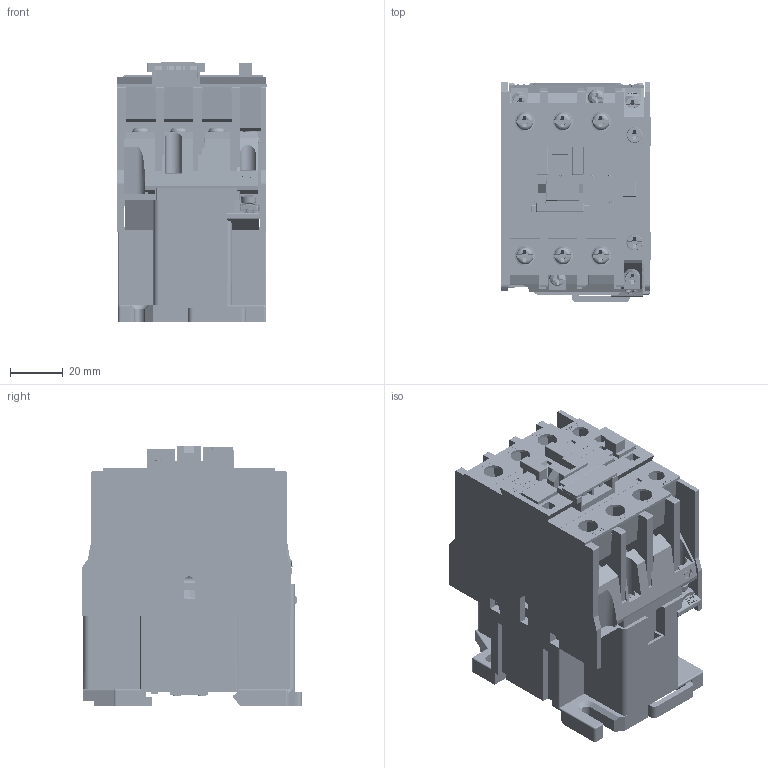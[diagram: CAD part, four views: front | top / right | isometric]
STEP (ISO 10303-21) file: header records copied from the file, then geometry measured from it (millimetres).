
FILE_DESCRIPTION((''),'2;1');
FILE_NAME('CJX2-3200_ASM','2023-07-26T16:45:33',('Administrator'),(''),'CREO PARAMETRIC BY PTC INC, 2020033','CREO PARAMETRIC BY PTC INC, 2020033','');
FILE_SCHEMA(('CONFIG_CONTROL_DESIGN'));
Products named in the file (22): CJX2-2500; CJX2-250002; CJX2S-250001; CJX2-250003; CJX2-250004; CJX2-3200; M4X100002; 9_5X300; M4X100001_ASM; M3_5X9_50002; 7_5X2_600; M3_5X9_50001_ASM; CJX2-321000; CJX2-322000; CJX2-09000; CJX2S-09_AF0; ST3_5X160001; CJX2-3200_ASM
Assembly tree (31 placements, depth 3):
  CJX2-3200_ASM
    CJX2-2500
    CJX2-250002
    CJX2S-250001
    CJX2-250003
    CJX2-250004
    CJX2-3200
    CJX2-3200
    M4X100001_ASM  x6
      M4X100002
      9_5X300
    M3_5X9_50001_ASM  x5
      M3_5X9_50002
      7_5X2_600
    CJX2-321000
    CJX2-322000
    CJX2-321000
    CJX2-322000
    CJX2-09000
    CJX2-2500
    CJX2S-09_AF0
    ST3_5X160001  x2
Bounding box: 56.7 x 83.75 x 99.1 mm (x, y, z)
Volume: 255599.9 mm3; surface area: 127445.9 mm2
Topology: 38 solids, 38 shells, 5351 faces, 15322 edges, 10248 vertices
Faces by surface type: plane 4459, cylinder 584, bspline 225, torus 58, sphere 13, cone 12
Entity records: 152985 total; most frequent: CARTESIAN_POINT 39886, ORIENTED_EDGE 24646, DIRECTION 21025, EDGE_CURVE 12323, VECTOR 11425, LINE 11425, VERTEX_POINT 8180, AXIS2_PLACEMENT_3D 4800
